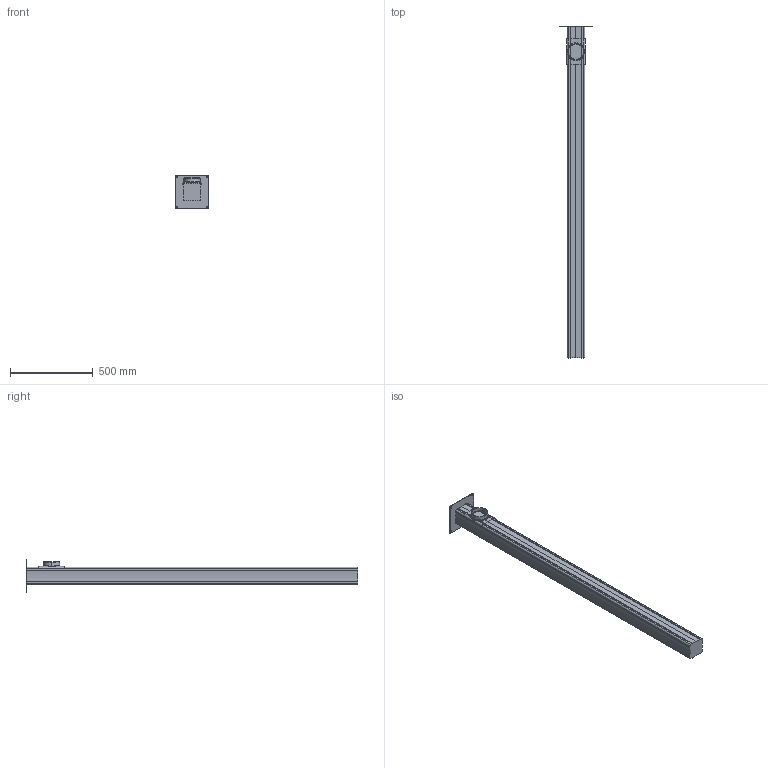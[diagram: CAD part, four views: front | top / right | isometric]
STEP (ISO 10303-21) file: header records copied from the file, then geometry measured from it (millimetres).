
FILE_DESCRIPTION((''),'2;1');
FILE_NAME('101348','2015-01-09T',('Tomas Bellgran'),(''),'PRO/ENGINEER BY PARAMETRIC TECHNOLOGY CORPORATION, 2013410','PRO/ENGINEER BY PARAMETRIC TECHNOLOGY CORPORATION, 2013410','');
FILE_SCHEMA(('AUTOMOTIVE_DESIGN { 1 0 10303 214 1 1 1 1 }'));
Length unit declared in the file: millimetre
Products named in the file (6): 100767; 100727; G_MTI_SPIGOT_75; G_MTI_SPIGOT_75_TPE; 101335; 101348
Assembly tree (5 placements, depth 3):
  101348
    100767
    100727
    101335
      G_MTI_SPIGOT_75
      G_MTI_SPIGOT_75_TPE
Bounding box: 200 x 2005 x 200 mm (x, y, z)
Volume: 22474955.1 mm3; surface area: 987339.2 mm2
Topology: 4 solids, 4 shells, 151 faces, 365 edges, 221 vertices
Faces by surface type: bspline 56, cylinder 45, plane 30, torus 12, cone 8
Entity records: 11079 total; most frequent: CARTESIAN_POINT 4469, ORIENTED_EDGE 730, DIRECTION 598, PRESENTATION_STYLE_ASSIGNMENT 464, STYLED_ITEM 464, CURVE_STYLE 365, EDGE_CURVE 365, PROPERTY_DEFINITION 256
